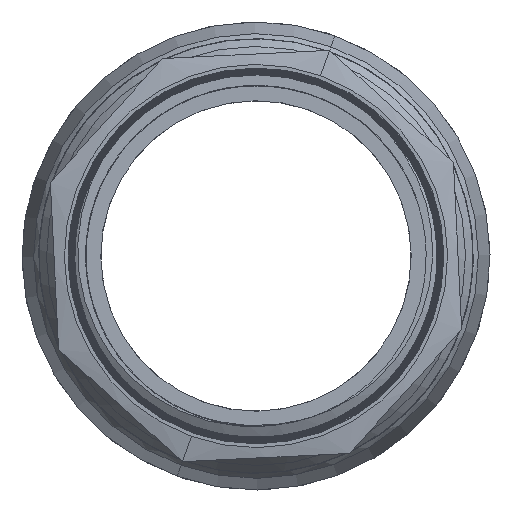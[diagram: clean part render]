
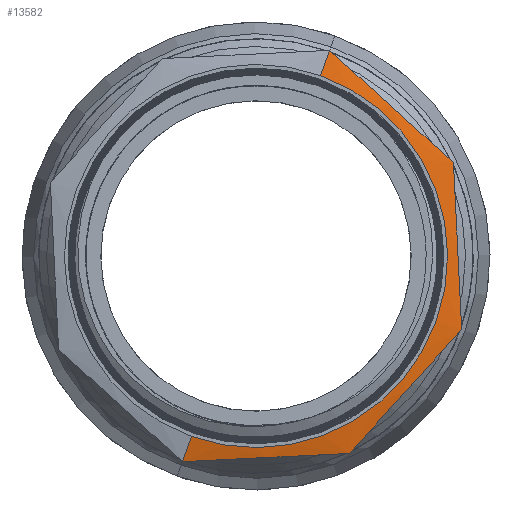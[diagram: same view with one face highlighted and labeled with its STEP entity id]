
A CAD part, left-side view. The second image highlights one B-rep face of the part: STEP entity #13582.
In plain terms, the highlighted conical face has half-angle 80.049 degrees and reference radius 24.687 mm.
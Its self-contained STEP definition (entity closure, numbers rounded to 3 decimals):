
#4569 = B_SPLINE_CURVE_WITH_KNOTS ( 'NONE', 3,
 ( #9830, #9827, #9821, #9831, #9832 ),
 .UNSPECIFIED., .F., .F.,
 ( 4, 1, 4 ),
 ( 0., 0.011, 0.022 ),
 .UNSPECIFIED. ) ;
#4570 = B_SPLINE_CURVE_WITH_KNOTS ( 'NONE', 3,
 ( #9822, #9829, #9836, #9837, #9838 ),
 .UNSPECIFIED., .F., .F.,
 ( 4, 1, 4 ),
 ( 0., 0.011, 0.022 ),
 .UNSPECIFIED. ) ;
#4571 = B_SPLINE_CURVE_WITH_KNOTS ( 'NONE', 3,
 ( #9833, #9835, #9841, #9842, #9843 ),
 .UNSPECIFIED., .F., .F.,
 ( 4, 1, 4 ),
 ( 0., 0.011, 0.022 ),
 .UNSPECIFIED. ) ;
#4572 = B_SPLINE_CURVE_WITH_KNOTS ( 'NONE', 3,
 ( #9834, #9840, #9845, #9846, #9847 ),
 .UNSPECIFIED., .F., .F.,
 ( 4, 1, 4 ),
 ( 0., 0.011, 0.022 ),
 .UNSPECIFIED. ) ;
#6896 = VECTOR ( 'NONE', #9850, 1000. ) ;
#6897 = AXIS2_PLACEMENT_3D ( 'NONE', #9824, #9825, #9826 ) ;
#6898 = VECTOR ( 'NONE', #9828, 1000. ) ;
#6899 = CIRCLE ( 'NONE', #6897, 24.687 ) ;
#7156 = AXIS2_PLACEMENT_3D ( 'NONE', #15357, #15355, #15351 ) ;
#7157 = CONICAL_SURFACE ( 'NONE', #7156, 24.687, 1.397 ) ;
#9818 = CARTESIAN_POINT ( 'NONE',  ( -776.605, 8.315, 48.709 ) ) ;
#9821 = CARTESIAN_POINT ( 'NONE',  ( -776.51, -1.278, 45.984 ) ) ;
#9822 = CARTESIAN_POINT ( 'NONE',  ( -775.999, -12.034, 46.513 ) ) ;
#9823 = LINE ( 'NONE', #9818, #6898 ) ;
#9824 = CARTESIAN_POINT ( 'NONE',  ( -776.605, 0., 71.953 ) ) ;
#9825 = DIRECTION ( 'NONE',  ( -1., 0., 0. ) ) ;
#9826 = DIRECTION ( 'NONE',  ( 0., -0.337, 0.942 ) ) ;
#9827 = CARTESIAN_POINT ( 'NONE',  ( -776.24, 5.894, 45.631 ) ) ;
#9828 = DIRECTION ( 'NONE',  ( 0.173, 0.332, -0.927 ) ) ;
#9829 = CARTESIAN_POINT ( 'NONE',  ( -776.24, -14.445, 49.173 ) ) ;
#9830 = CARTESIAN_POINT ( 'NONE',  ( -775.999, 9.479, 45.455 ) ) ;
#9831 = CARTESIAN_POINT ( 'NONE',  ( -776.24, -8.449, 46.337 ) ) ;
#9832 = CARTESIAN_POINT ( 'NONE',  ( -775.999, -12.034, 46.513 ) ) ;
#9833 = CARTESIAN_POINT ( 'NONE',  ( -775.999, -26.498, 62.474 ) ) ;
#9834 = CARTESIAN_POINT ( 'NONE',  ( -775.999, -25.439, 83.987 ) ) ;
#9835 = CARTESIAN_POINT ( 'NONE',  ( -776.24, -26.321, 66.059 ) ) ;
#9836 = CARTESIAN_POINT ( 'NONE',  ( -776.51, -19.266, 54.494 ) ) ;
#9837 = CARTESIAN_POINT ( 'NONE',  ( -776.24, -24.087, 59.814 ) ) ;
#9838 = CARTESIAN_POINT ( 'NONE',  ( -775.999, -26.498, 62.474 ) ) ;
#9840 = CARTESIAN_POINT ( 'NONE',  ( -776.24, -22.779, 86.398 ) ) ;
#9841 = CARTESIAN_POINT ( 'NONE',  ( -776.51, -25.969, 73.23 ) ) ;
#9842 = CARTESIAN_POINT ( 'NONE',  ( -776.24, -25.616, 80.401 ) ) ;
#9843 = CARTESIAN_POINT ( 'NONE',  ( -775.999, -25.439, 83.987 ) ) ;
#9844 = LINE ( 'NONE', #9849, #6896 ) ;
#9845 = CARTESIAN_POINT ( 'NONE',  ( -776.51, -17.459, 91.219 ) ) ;
#9846 = CARTESIAN_POINT ( 'NONE',  ( -776.24, -12.139, 96.04 ) ) ;
#9847 = CARTESIAN_POINT ( 'NONE',  ( -775.999, -9.479, 98.451 ) ) ;
#9849 = CARTESIAN_POINT ( 'NONE',  ( -776.605, -8.315, 95.197 ) ) ;
#9850 = DIRECTION ( 'NONE',  ( 0.173, -0.332, 0.927 ) ) ;
#13582 = ADVANCED_FACE ( 'NONE', ( #15354 ), #7157, .T. ) ;
#13853 = EDGE_CURVE ( 'NONE', #18372, #18360, #6899, .T. ) ;
#13854 = EDGE_CURVE ( 'NONE', #18372, #18351, #9823, .T. ) ;
#13855 = EDGE_CURVE ( 'NONE', #18351, #18350, #4569, .T. ) ;
#13856 = EDGE_CURVE ( 'NONE', #18350, #18349, #4570, .T. ) ;
#13857 = EDGE_CURVE ( 'NONE', #18349, #18348, #4571, .T. ) ;
#13858 = EDGE_CURVE ( 'NONE', #18348, #18347, #4572, .T. ) ;
#13859 = EDGE_CURVE ( 'NONE', #18360, #18347, #9844, .T. ) ;
#13987 = ORIENTED_EDGE ( 'NONE', *, *, #13857, .T. ) ;
#13989 = ORIENTED_EDGE ( 'NONE', *, *, #13859, .F. ) ;
#13992 = ORIENTED_EDGE ( 'NONE', *, *, #13858, .T. ) ;
#13993 = ORIENTED_EDGE ( 'NONE', *, *, #13856, .T. ) ;
#13994 = ORIENTED_EDGE ( 'NONE', *, *, #13855, .T. ) ;
#13995 = ORIENTED_EDGE ( 'NONE', *, *, #13854, .T. ) ;
#13996 = ORIENTED_EDGE ( 'NONE', *, *, #13853, .F. ) ;
#14226 = EDGE_LOOP ( 'NONE', ( #13996, #13995, #13994, #13993, #13987, #13992, #13989 ) ) ;
#15351 = DIRECTION ( 'NONE',  ( 0., -0.337, 0.942 ) ) ;
#15354 = FACE_OUTER_BOUND ( 'NONE', #14226, .T. ) ;
#15355 = DIRECTION ( 'NONE',  ( 1., 0., 0. ) ) ;
#15357 = CARTESIAN_POINT ( 'NONE',  ( -776.605, 0., 71.953 ) ) ;
#18131 = CARTESIAN_POINT ( 'NONE',  ( -775.999, -9.479, 98.451 ) ) ;
#18132 = CARTESIAN_POINT ( 'NONE',  ( -775.999, -25.439, 83.987 ) ) ;
#18133 = CARTESIAN_POINT ( 'NONE',  ( -775.999, -26.498, 62.474 ) ) ;
#18134 = CARTESIAN_POINT ( 'NONE',  ( -775.999, -12.034, 46.513 ) ) ;
#18135 = CARTESIAN_POINT ( 'NONE',  ( -775.999, 9.479, 45.455 ) ) ;
#18144 = CARTESIAN_POINT ( 'NONE',  ( -776.605, -8.315, 95.197 ) ) ;
#18155 = CARTESIAN_POINT ( 'NONE',  ( -776.605, 8.315, 48.709 ) ) ;
#18347 = VERTEX_POINT ( 'NONE', #18131 ) ;
#18348 = VERTEX_POINT ( 'NONE', #18132 ) ;
#18349 = VERTEX_POINT ( 'NONE', #18133 ) ;
#18350 = VERTEX_POINT ( 'NONE', #18134 ) ;
#18351 = VERTEX_POINT ( 'NONE', #18135 ) ;
#18360 = VERTEX_POINT ( 'NONE', #18144 ) ;
#18372 = VERTEX_POINT ( 'NONE', #18155 ) ;
